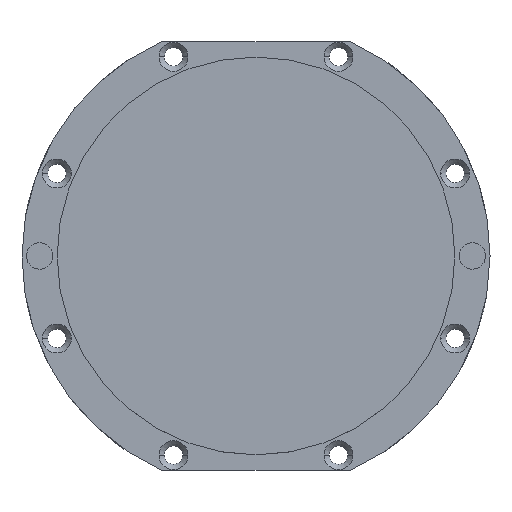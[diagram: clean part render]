
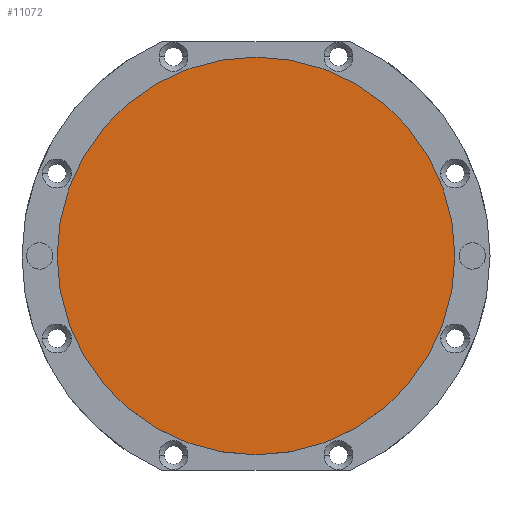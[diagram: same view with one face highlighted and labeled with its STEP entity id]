
A CAD part, top view. The second image highlights one B-rep face of the part: STEP entity #11072.
In plain terms, the highlighted planar face has unit normal (0, 0, 1).
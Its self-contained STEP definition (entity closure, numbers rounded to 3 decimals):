
#11037=AXIS2_PLACEMENT_3D('Plane Axis2P3D',#11034,#11035,#11036) ;
#11056=AXIS2_PLACEMENT_3D('Circle Axis2P3D',#11054,#11055,$) ;
#11065=AXIS2_PLACEMENT_3D('Circle Axis2P3D',#11063,#11064,$) ;
#11034=CARTESIAN_POINT('Axis2P3D Location',(-41.16,0.,4.1)) ;
#11054=CARTESIAN_POINT('Axis2P3D Location',(0.,0.,4.1)) ;
#11058=CARTESIAN_POINT('Vertex',(-37.82,0.,4.1)) ;
#11060=CARTESIAN_POINT('Vertex',(37.82,0.,4.1)) ;
#11063=CARTESIAN_POINT('Axis2P3D Location',(0.,0.,4.1)) ;
#11035=DIRECTION('Axis2P3D Direction',(0.,0.,-1.)) ;
#11036=DIRECTION('Axis2P3D XDirection',(-0.924,0.383,0.)) ;
#11055=DIRECTION('Axis2P3D Direction',(0.,0.,-1.)) ;
#11064=DIRECTION('Axis2P3D Direction',(0.,0.,-1.)) ;
#11069=ORIENTED_EDGE('',*,*,#11062,.T.) ;
#11070=ORIENTED_EDGE('',*,*,#11067,.T.) ;
#11072=ADVANCED_FACE('SANT',(#11071),#11038,.F.) ;
#11057=CIRCLE('generated circle',#11056,37.82) ;
#11066=CIRCLE('generated circle',#11065,37.82) ;
#11062=EDGE_CURVE('',#11059,#11061,#11057,.F.) ;
#11067=EDGE_CURVE('',#11061,#11059,#11066,.F.) ;
#11068=EDGE_LOOP('',(#11069,#11070)) ;
#11071=FACE_OUTER_BOUND('',#11068,.T.) ;
#11038=PLANE('',#11037) ;
#11059=VERTEX_POINT('',#11058) ;
#11061=VERTEX_POINT('',#11060) ;
